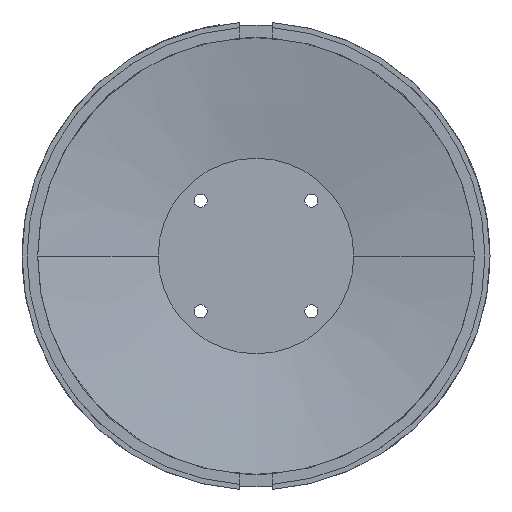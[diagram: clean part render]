
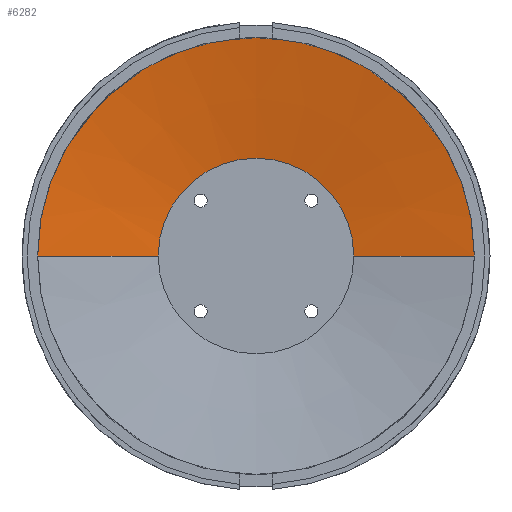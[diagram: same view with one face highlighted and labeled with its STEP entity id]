
A CAD part, front view. The second image highlights one B-rep face of the part: STEP entity #6282.
In plain terms, the highlighted conical face has half-angle 80 degrees and reference radius 48.5 mm.
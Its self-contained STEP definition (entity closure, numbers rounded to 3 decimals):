
#216 = AXIS2_PLACEMENT_3D ( 'NONE', #2721, #564, #5115 ) ;
#502 = VERTEX_POINT ( 'NONE', #1715 ) ;
#564 = DIRECTION ( 'NONE',  ( 0., -1., 0. ) ) ;
#704 = DIRECTION ( 'NONE',  ( -1., 0., 0. ) ) ;
#901 = EDGE_LOOP ( 'NONE', ( #3585, #4153, #4725, #5366 ) ) ;
#944 = CARTESIAN_POINT ( 'NONE',  ( 67., 8.989, 0. ) ) ;
#1210 = DIRECTION ( 'NONE',  ( 0., 1., 0. ) ) ;
#1715 = CARTESIAN_POINT ( 'NONE',  ( -30., 15.513, 0. ) ) ;
#2214 = LINE ( 'NONE', #2255, #4021 ) ;
#2255 = CARTESIAN_POINT ( 'NONE',  ( 67., 8.989, 0. ) ) ;
#2571 = VECTOR ( 'NONE', #3410, 1000. ) ;
#2721 = CARTESIAN_POINT ( 'NONE',  ( 0., 12.251, 0. ) ) ;
#2745 = VERTEX_POINT ( 'NONE', #7139 ) ;
#2855 = LINE ( 'NONE', #4012, #2571 ) ;
#2908 = DIRECTION ( 'NONE',  ( 0., 1., 0. ) ) ;
#3241 = FACE_OUTER_BOUND ( 'NONE', #901, .T. ) ;
#3410 = DIRECTION ( 'NONE',  ( 0.985, 0.174, 0. ) ) ;
#3585 = ORIENTED_EDGE ( 'NONE', *, *, #4773, .T. ) ;
#3733 = VERTEX_POINT ( 'NONE', #944 ) ;
#3788 = CIRCLE ( 'NONE', #5213, 67. ) ;
#3947 = DIRECTION ( 'NONE',  ( -1., 0., 0. ) ) ;
#4012 = CARTESIAN_POINT ( 'NONE',  ( -67., 8.989, 0. ) ) ;
#4014 = DIRECTION ( 'NONE',  ( -0.985, 0.174, 0. ) ) ;
#4021 = VECTOR ( 'NONE', #4014, 1000. ) ;
#4024 = CARTESIAN_POINT ( 'NONE',  ( 0., 15.513, 0. ) ) ;
#4153 = ORIENTED_EDGE ( 'NONE', *, *, #7039, .T. ) ;
#4260 = AXIS2_PLACEMENT_3D ( 'NONE', #4024, #1210, #3947 ) ;
#4725 = ORIENTED_EDGE ( 'NONE', *, *, #5737, .F. ) ;
#4773 = EDGE_CURVE ( 'NONE', #6819, #502, #2855, .T. ) ;
#5103 = CIRCLE ( 'NONE', #4260, 30. ) ;
#5115 = DIRECTION ( 'NONE',  ( -1., 0., 0. ) ) ;
#5213 = AXIS2_PLACEMENT_3D ( 'NONE', #6338, #2908, #704 ) ;
#5366 = ORIENTED_EDGE ( 'NONE', *, *, #6454, .F. ) ;
#5448 = CONICAL_SURFACE ( 'NONE', #216, 48.5, 1.396 ) ;
#5737 = EDGE_CURVE ( 'NONE', #3733, #2745, #2214, .T. ) ;
#6282 = ADVANCED_FACE ( 'NONE', ( #3241 ), #5448, .F. ) ;
#6338 = CARTESIAN_POINT ( 'NONE',  ( 0., 8.989, 0. ) ) ;
#6454 = EDGE_CURVE ( 'NONE', #6819, #3733, #3788, .T. ) ;
#6819 = VERTEX_POINT ( 'NONE', #7305 ) ;
#7039 = EDGE_CURVE ( 'NONE', #502, #2745, #5103, .T. ) ;
#7139 = CARTESIAN_POINT ( 'NONE',  ( 30., 15.513, 0. ) ) ;
#7305 = CARTESIAN_POINT ( 'NONE',  ( -67., 8.989, 0. ) ) ;
